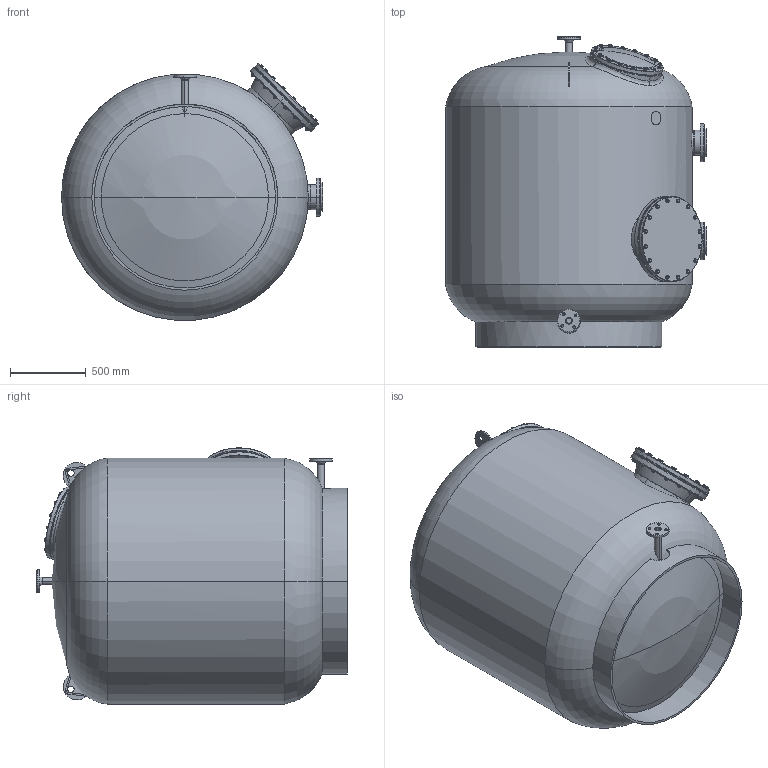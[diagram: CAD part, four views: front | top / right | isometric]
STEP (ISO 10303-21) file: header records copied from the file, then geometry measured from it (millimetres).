
FILE_DESCRIPTION (( 'STEP AP214' ), '1' );
FILE_NAME ('adriatic160c_sb1000.STEP', '2020-11-04T09:19:56', ( '' ), ( '' ), 'SwSTEP 2.0', 'SolidWorks 2019', '' );
FILE_SCHEMA (( 'AUTOMOTIVE_DESIGN' ));
Length unit declared in the file: millimetre
Products named in the file (1): adriatic160c_sb1000
Bounding box: 1725.44 x 2050.02 x 1694.49 mm (x, y, z)
Surface area: 27045541.2 mm2 (no closed solid volume)
Topology: 0 solids, 130 shells, 1915 faces, 4257 edges, 2604 vertices
Faces by surface type: cone 621, cylinder 616, plane 579, torus 81, sphere 10, bspline 8
Entity records: 104689 total; most frequent: CARTESIAN_POINT 41252, ORIENTED_EDGE 8366, DIRECTION 8360, EDGE_CURVE 4215, AXIS2_PLACEMENT_3D 3596, VERTEX_POINT 2602, EDGE_LOOP 2305, UNCERTAINTY_MEASURE_WITH_UNIT 2031
